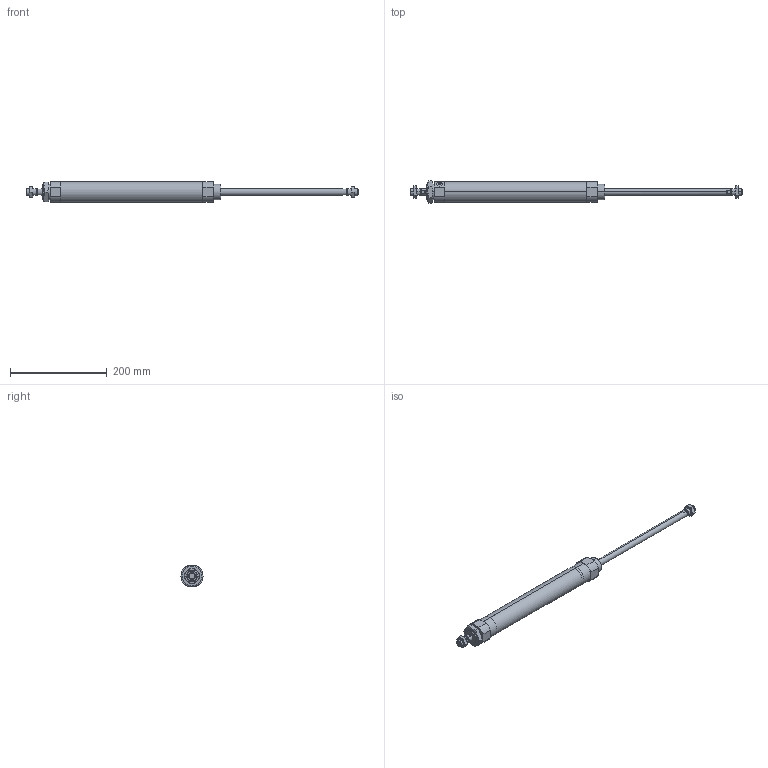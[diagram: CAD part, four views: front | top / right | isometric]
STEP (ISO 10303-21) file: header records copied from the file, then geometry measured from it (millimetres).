
FILE_DESCRIPTION (( 'STEP AP203' ), '1' );
FILE_NAME ('CSM2B40-250-P.STEP', '2020-07-20T16:52:20', ( '' ), ( '' ), 'SwSTEP 2.0', 'SolidWorks 2019', '' );
FILE_SCHEMA (( 'CONFIG_CONTROL_DESIGN' ));
Length unit declared in the file: millimetre
Products named in the file (1): CSM2B40-250-P
Bounding box: 688 x 47.34 x 42.5 mm (x, y, z)
Volume: 285002.3 mm3; surface area: 131301.2 mm2
Topology: 5 solids, 5 shells, 155 faces, 362 edges, 227 vertices
Faces by surface type: plane 63, cylinder 48, cone 44
Entity records: 5729 total; most frequent: CARTESIAN_POINT 2109, DIRECTION 750, ORIENTED_EDGE 720, EDGE_CURVE 360, AXIS2_PLACEMENT_3D 296, VERTEX_POINT 227, EDGE_LOOP 179, VECTOR 158
